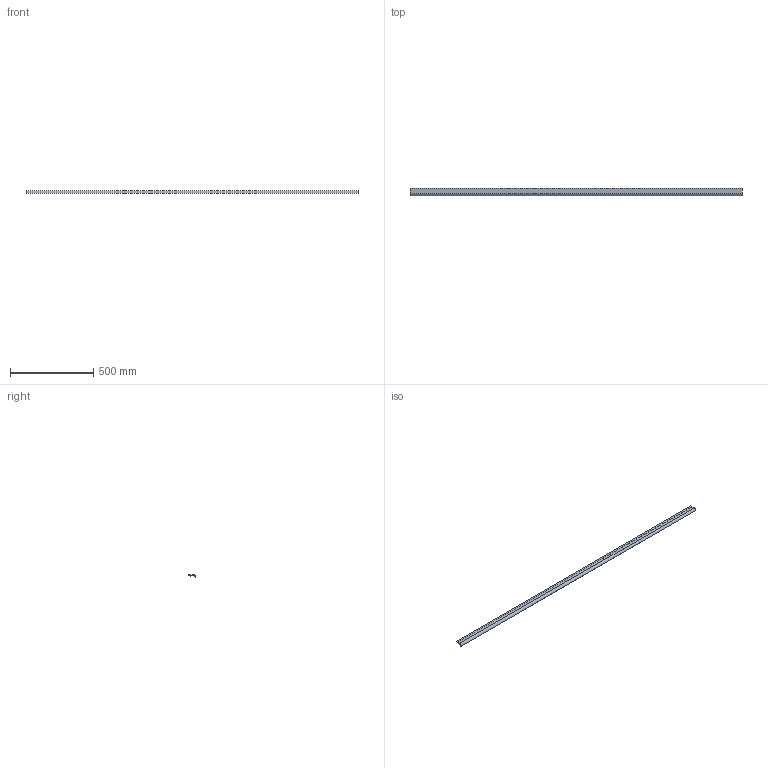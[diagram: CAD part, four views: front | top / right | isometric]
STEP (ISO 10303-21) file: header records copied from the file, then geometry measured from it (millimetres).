
FILE_DESCRIPTION( ( 'STEP AP214' ), '1' );
FILE_NAME( 'C:/Users/swati/Desktop/3D_check/QC2/New folder/115115/115115.stp', ' ', ( ' ' ), ( ' ' ), 'PSStep 15.0.47', 'PARTsolutions', ' ' );
FILE_SCHEMA( ( 'AUTOMOTIVE_DESIGN { 1 0 10303 214 1 1 1 1 }' ) );
Length unit declared in the file: millimetre
Products named in the file (2): 95 ; _
Assembly tree (1 placements, depth 2):
  95 
    _
Bounding box: 2000 x 43 x 14 mm (x, y, z)
Volume: 313938.1 mm3; surface area: 249070.1 mm2
Topology: 1 solids, 1 shells, 29 faces, 78 edges, 52 vertices
Faces by surface type: plane 27, cylinder 2
Entity records: 1166 total; most frequent: CARTESIAN_POINT 161, ORIENTED_EDGE 156, DIRECTION 144, EDGE_CURVE 78, LINE 74, VECTOR 74, VERTEX_POINT 52, AXIS2_PLACEMENT_3D 35
